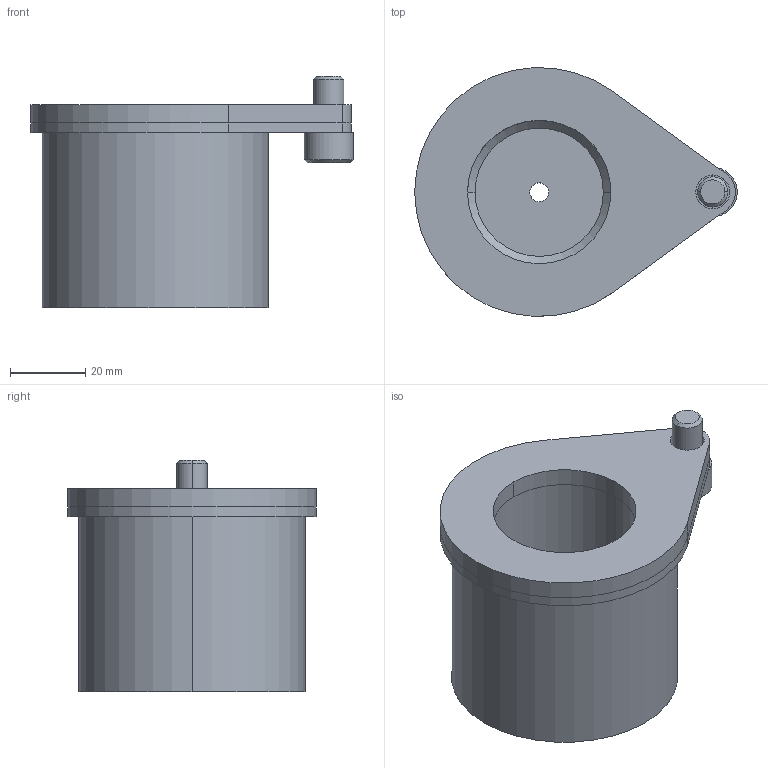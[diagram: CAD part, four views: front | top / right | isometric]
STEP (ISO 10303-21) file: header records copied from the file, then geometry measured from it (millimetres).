
FILE_DESCRIPTION(/* description */ (''),/* implementation_level */ '2;1');
FILE_NAME(/* name */ '3d_pqsp38-49_02949_r00.stp',/* time_stamp */ '2011-01-10T14:11:42+09:00',/* author */ ('MISUMI'),/* organization */ (''),/* preprocessor_version */ 'ST-DEVELOPER v11',/* originating_system */ 'UGS - NX 5.0',/* authorisation */ '');
FILE_SCHEMA (('CONFIG_CONTROL_DESIGN'));
Length unit declared in the file: millimetre
Products named in the file (1): 3d_pqsp38-49_02949_r00
Bounding box: 85.5 x 65.92 x 61.4 mm (x, y, z)
Volume: 109111.9 mm3; surface area: 31118 mm2
Topology: 4 solids, 4 shells, 51 faces, 120 edges, 80 vertices
Faces by surface type: plane 21, cylinder 20, cone 10
Entity records: 1594 total; most frequent: DIRECTION 284, CARTESIAN_POINT 252, ORIENTED_EDGE 240, EDGE_CURVE 120, AXIS2_PLACEMENT_3D 112, VERTEX_POINT 80, EDGE_LOOP 64, LINE 60
